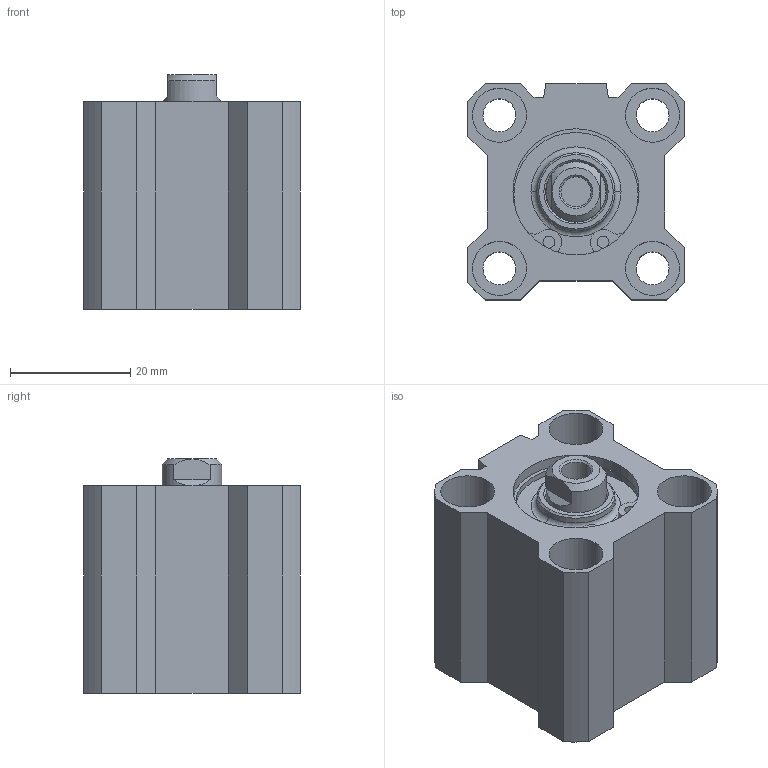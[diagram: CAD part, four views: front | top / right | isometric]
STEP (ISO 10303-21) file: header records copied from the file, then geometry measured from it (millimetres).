
FILE_DESCRIPTION (( 'STEP AP214' ), '1' );
FILE_NAME ('CQ2B20-15D.step.step', '2021-07-26T13:13:09', ( '' ), ( '' ), 'SwSTEP 2.0', 'SolidWorks 2021', '' );
FILE_SCHEMA (( 'AUTOMOTIVE_DESIGN' ));
Length unit declared in the file: millimetre
Products named in the file (4): CQ2B20-15D.step; CQ2B20-15D.step_CQ22031Rods_20; CQ2B20-15D.step_CQ2 SnapRing_20; CQ2B20-15D.step_CQ2Tube_20B
Assembly tree (3 placements, depth 2):
  CQ2B20-15D.step
    CQ2B20-15D.step_CQ2Tube_20B
    CQ2B20-15D.step_CQ22031Rods_20
    CQ2B20-15D.step_CQ2 SnapRing_20
Bounding box: 36 x 36 x 39 mm (x, y, z)
Volume: 28510.4 mm3; surface area: 16271.9 mm2
Topology: 3 solids, 3 shells, 146 faces, 347 edges, 224 vertices
Faces by surface type: cylinder 73, plane 59, cone 12, torus 2
Entity records: 4901 total; most frequent: DIRECTION 801, CARTESIAN_POINT 769, ORIENTED_EDGE 686, EDGE_CURVE 343, AXIS2_PLACEMENT_3D 316, VERTEX_POINT 224, EDGE_LOOP 177, LINE 169
